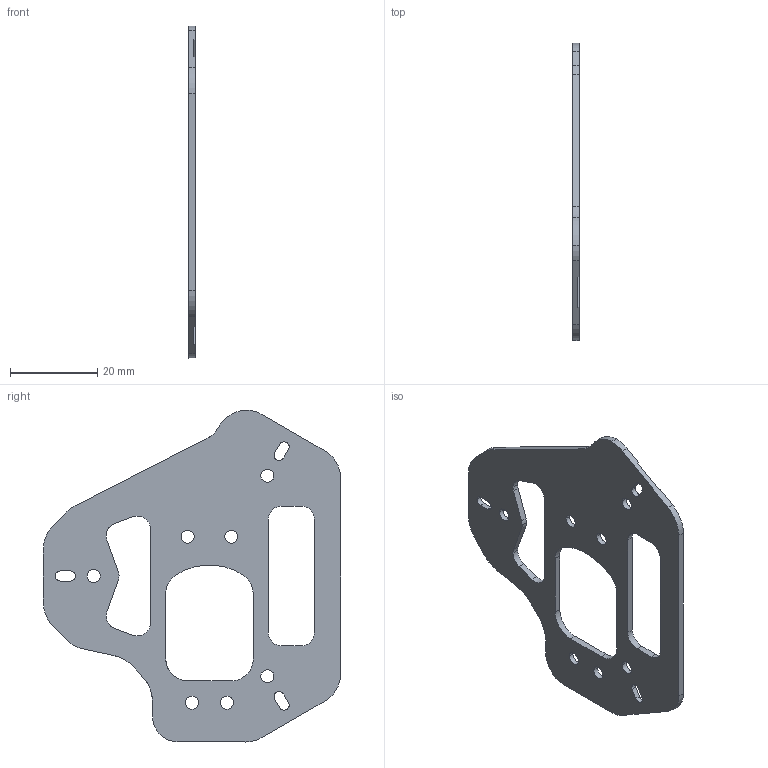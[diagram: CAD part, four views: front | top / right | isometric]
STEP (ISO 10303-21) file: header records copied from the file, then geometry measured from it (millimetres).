
FILE_DESCRIPTION (( 'STEP AP203' ), '1' );
FILE_NAME ('PEN-S-PPC.STEP', '2025-01-21T11:52:34', ( '' ), ( '' ), 'SwSTEP 2.0', 'SolidWorks 2024', '' );
FILE_SCHEMA (( 'CONFIG_CONTROL_DESIGN' ));
Length unit declared in the file: millimetre
Products named in the file (1): PEN-S-PPC
Bounding box: 1.5 x 68 x 76 mm (x, y, z)
Volume: 3873.6 mm3; surface area: 6164.7 mm2
Topology: 1 solids, 1 shells, 119 faces, 362 edges, 248 vertices
Faces by surface type: cylinder 71, plane 48
Entity records: 4639 total; most frequent: CARTESIAN_POINT 1514, ORIENTED_EDGE 724, DIRECTION 510, EDGE_CURVE 362, VERTEX_POINT 248, AXIS2_PLACEMENT_3D 206, B_SPLINE_CURVE_WITH_KNOTS 178, EDGE_LOOP 148
